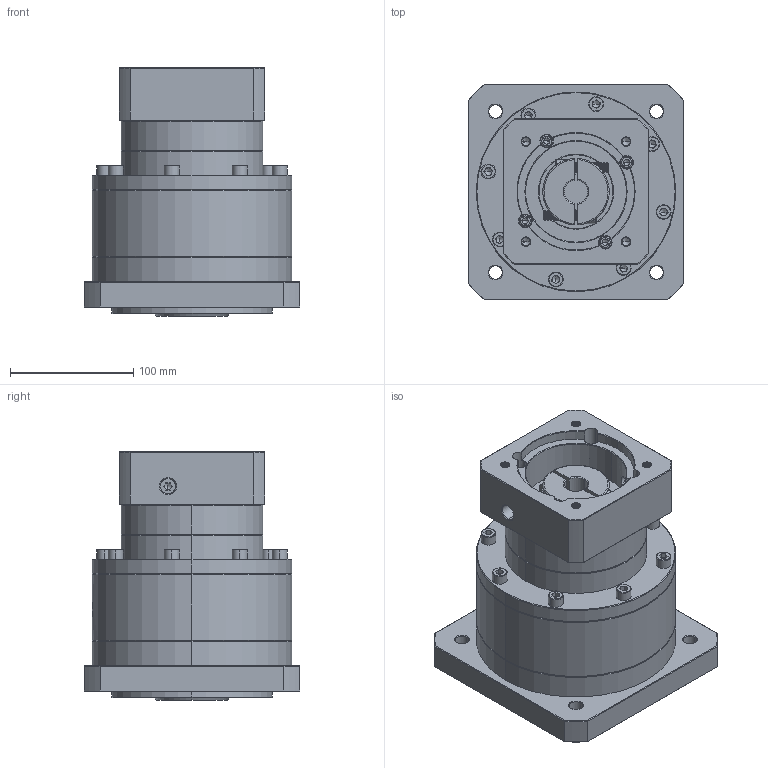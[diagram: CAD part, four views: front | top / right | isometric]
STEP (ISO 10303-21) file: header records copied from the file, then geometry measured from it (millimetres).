
FILE_DESCRIPTION (( 'STEP AP214' ), '1' );
FILE_NAME ('ZF160A-K35-L2-P2-19-95-115-M8.step', '2023-09-03T07:57:18', ( '' ), ( '' ), 'SwSTEP 2.0', 'SolidWorks 2016', '' );
FILE_SCHEMA (( 'AUTOMOTIVE_DESIGN' ));
Length unit declared in the file: millimetre
Products named in the file (1): ZF160A-K35-L2-P2-19-95-115-M8
Bounding box: 175 x 175 x 201.7 mm (x, y, z)
Volume: 3228986.9 mm3; surface area: 255080.4 mm2
Topology: 6 solids, 6 shells, 2390 faces, 6337 edges, 4069 vertices
Faces by surface type: plane 1112, cylinder 457, bspline 418, cone 367, torus 36
Entity records: 126211 total; most frequent: CARTESIAN_POINT 45658, ORIENTED_EDGE 12570, DIRECTION 9587, EDGE_CURVE 6285, VERTEX_POINT 4069, LINE 3329, VECTOR 3329, AXIS2_PLACEMENT_3D 3129
